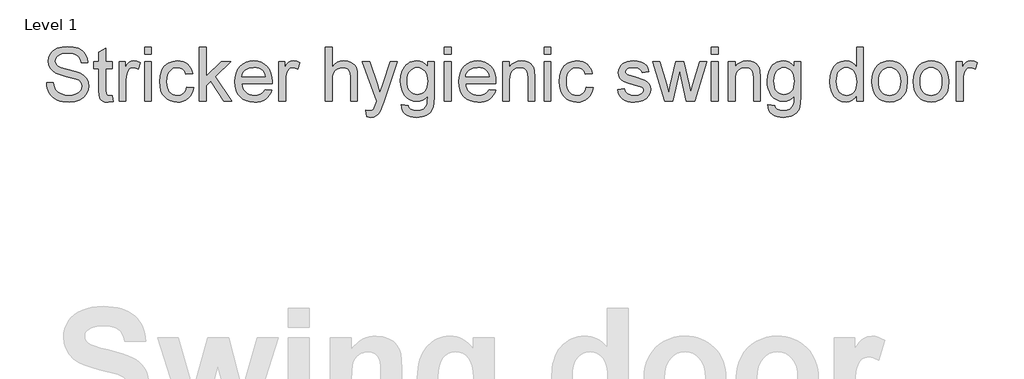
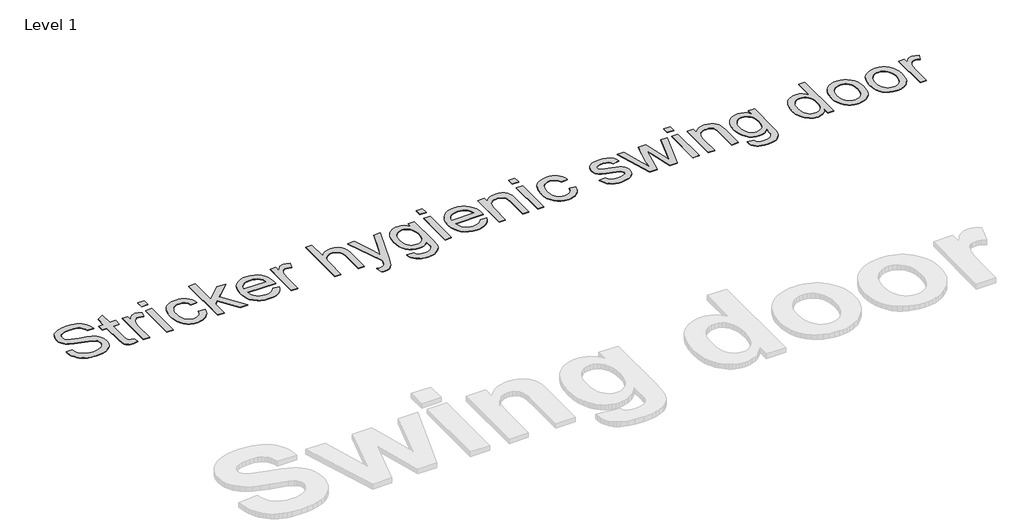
# One storey, part 20 of 20: 1 proxy.
"""IFC4 building model written with IfcOpenShell, lengths in millimetres."""

import ifcopenshell
import ifcopenshell.guid

model = None  # the IFC model being written
_history = None  # IfcOwnerHistory: only IFC2X3 demands one
_inside = {}  # id of a spatial element -> (the spatial element, [elements in it])
_under = {}  # id of a project, library or spatial element -> (it, [spatial elements below it])
_declared = {}  # id of a project -> (the project, [libraries it declares])
_typed = {}  # id of a type object -> (the type object, [elements of that type])
_made_of = {}  # id of a material, layer set ... -> (it, [elements and type objects made of it])


def new_model(schema):
    """Start an empty IFC model of exactly this schema.

    Asked for "IFC4X3", IfcOpenShell would pick the latest addendum, in which some entities
    have other attributes; the version numbers below select the first issue.
    IFC2X3 requires an IfcOwnerHistory on every rooted entity: one is made here for all.
    """
    global model, _history
    if schema == "IFC4X3":
        model = ifcopenshell.file(schema_version=(4, 3, 0, 0))
    else:
        model = ifcopenshell.file(schema=schema)
    _inside.clear()
    _under.clear()
    _declared.clear()
    _typed.clear()
    _made_of.clear()
    _history = None
    if model.schema == "IFC2X3":
        org = make("IfcOrganization", Name="unknown")
        user = make(
            "IfcPersonAndOrganization",
            ThePerson=make("IfcPerson", FamilyName="unknown"),
            TheOrganization=org,
        )
        app = make(
            "IfcApplication",
            ApplicationDeveloper=org,
            Version="unknown",
            ApplicationFullName="unknown",
            ApplicationIdentifier="unknown",
        )
        _history = make(
            "IfcOwnerHistory",
            OwningUser=user,
            OwningApplication=app,
            ChangeAction="ADDED",
            CreationDate=0,
        )
    return model


def make(cls, **values):
    """One entity of the class cls with the attributes given. An attribute that is None is left unset."""
    return model.create_entity(
        cls, **{name: value for name, value in values.items() if value is not None}
    )


def rooted(cls, **values):
    """An entity with a GlobalId (a new one), such as an element, a storey or a relation."""
    return make(cls, GlobalId=ifcopenshell.guid.new(), OwnerHistory=_history, **values)


def si_unit(unit_type, name, prefix=None):
    """IfcSIUnit, for example si_unit("LENGTHUNIT", "METRE", prefix="MILLI")."""
    return make("IfcSIUnit", UnitType=unit_type, Prefix=prefix, Name=name)


def assignment(units):
    """IfcUnitAssignment: the units of a project."""
    return None if units is None else make("IfcUnitAssignment", Units=units)


def point(xyz):
    """IfcCartesianPoint."""
    return None if xyz is None else make("IfcCartesianPoint", Coordinates=xyz)


def direction(xyz):
    """IfcDirection."""
    return None if xyz is None else make("IfcDirection", DirectionRatios=xyz)


def frame(location, z_axis=None, x_axis=None):
    """IfcAxis2Placement3D, a coordinate frame: its origin and axes. An axis left out is left unset."""
    return make(
        "IfcAxis2Placement3D",
        Location=point(location),
        Axis=direction(z_axis),
        RefDirection=direction(x_axis),
    )


def origin():
    """The frame at (0, 0, 0) with its axes left unset."""
    return frame((0.0, 0.0, 0.0))


def origin_with_axes():
    """The frame at (0, 0, 0) with the z axis (0, 0, 1) and the x axis (1, 0, 0) written out."""
    return frame((0.0, 0.0, 0.0), z_axis=(0.0, 0.0, 1.0), x_axis=(1.0, 0.0, 0.0))


def place(relative_to, where):
    """IfcLocalPlacement: puts the frame where relative to a parent placement (None: the world)."""
    return make(
        "IfcLocalPlacement", PlacementRelTo=relative_to, RelativePlacement=where
    )


def context(
    kind, dimensions, precision=None, world=None, true_north=None, identifier=None
):
    """IfcGeometricRepresentationContext, for example the 3D "Model" context."""
    return make(
        "IfcGeometricRepresentationContext",
        ContextIdentifier=identifier,
        ContextType=kind,
        CoordinateSpaceDimension=dimensions,
        Precision=precision,
        WorldCoordinateSystem=world,
        TrueNorth=true_north,
    )


def project(units=None, contexts=None):
    """IfcProject with its units and contexts."""
    return rooted(
        "IfcProject",
        Name="project",
        RepresentationContexts=contexts,
        UnitsInContext=assignment(units),
    )


def spatial(cls, under=None, at=None, **own):
    """A site, building, storey or space (cls), placed at a placement, below another one or the project."""
    s = rooted(cls, ObjectPlacement=at, **own)
    if under is not None:
        _under.setdefault(under.id(), (under, []))[1].append(s)
    return s


def polyline(points):
    """IfcPolyline through the points."""
    return make("IfcPolyline", Points=[point(p) for p in points])


def outline(outer, holes=None, kind="AREA"):
    """IfcArbitraryClosedProfileDef: a profile drawn as a closed curve; with holes, ...WithVoids."""
    if holes is None:
        return make("IfcArbitraryClosedProfileDef", ProfileType=kind, OuterCurve=outer)
    return make(
        "IfcArbitraryProfileDefWithVoids",
        ProfileType=kind,
        OuterCurve=outer,
        InnerCurves=holes,
    )


def extrude(swept, where, along, depth):
    """IfcExtrudedAreaSolid: the profile swept, set in the frame where, extruded along a direction by depth."""
    return make(
        "IfcExtrudedAreaSolid",
        SweptArea=swept,
        Position=where,
        ExtrudedDirection=direction(along),
        Depth=depth,
    )


def shape(context_of_items, identifier, shape_type, items):
    """IfcShapeRepresentation: the items that make up one representation, for example the "Body"."""
    return make(
        "IfcShapeRepresentation",
        ContextOfItems=context_of_items,
        RepresentationIdentifier=identifier,
        RepresentationType=shape_type,
        Items=items,
    )


def made_of(thing, what):
    """Note that an element or type object is made of a material, layer set ...; save() writes the relation."""
    if what is not None:
        _made_of.setdefault(what.id(), (what, []))[1].append(thing)
    return thing


def element(
    cls,
    number,
    at=None,
    inside=None,
    cuts=None,
    type_object=None,
    material=None,
    context=None,
    identifier="Body",
    shape_type=None,
    held_by="IfcProductDefinitionShape",
    body=None,
    shapes=None,
    **own,
):
    """One element of the class cls, such as IfcWall. Its Tag is "e" and its number.

    at: its placement. inside: the storey or other place that contains it. cuts: it is an
    opening in that element (IfcRelVoidsElement). A single representation is given by context,
    identifier, shape_type and body (its items); several are given by shapes. held_by: the class
    of the entity that holds the representations. save() writes the other relations.
    """
    e = rooted(cls, Tag="e%d" % number, ObjectPlacement=at, **own)
    if body is not None:
        shapes = [shape(context, identifier, shape_type, body)]
    if shapes is not None:
        e.Representation = make(held_by, Representations=shapes)
    if inside is not None:
        _inside.setdefault(inside.id(), (inside, []))[1].append(e)
    if cuts is not None:
        rooted(
            "IfcRelVoidsElement", RelatingBuildingElement=cuts, RelatedOpeningElement=e
        )
    if type_object is not None:
        _typed.setdefault(type_object.id(), (type_object, []))[1].append(e)
    return made_of(e, material)


def aggregate(whole, parts):
    """IfcRelAggregates: a whole, such as a stair, and the parts it consists of."""
    return rooted("IfcRelAggregates", RelatingObject=whole, RelatedObjects=parts)


def save(model, path):
    """Write the relations noted so far, then the file.

    IfcRelAggregates (storeys below a building ...), IfcRelContainedInSpatialStructure (elements
    in a storey), IfcRelDefinesByType, IfcRelAssociatesMaterial and IfcRelDeclares: one each for
    every whole, place, type object, material and project.
    """
    for whole, parts in _under.values():
        aggregate(whole, parts)
    for where, things in _inside.values():
        rooted(
            "IfcRelContainedInSpatialStructure",
            RelatedElements=things,
            RelatingStructure=where,
        )
    for kind, things in _typed.values():
        rooted("IfcRelDefinesByType", RelatedObjects=things, RelatingType=kind)
    for what, things in _made_of.values():
        rooted("IfcRelAssociatesMaterial", RelatedObjects=things, RelatingMaterial=what)
    for by, libraries in _declared.values():
        rooted("IfcRelDeclares", RelatingContext=by, RelatedDefinitions=libraries)
    model.write(path)


model = new_model("IFC4")

# Units and contexts
model_context = context("Model", 3, world=origin())
ifc_project = project(units=[si_unit("LENGTHUNIT", "METRE", prefix="MILLI")], contexts=[model_context])

# Site, building, storey
site = spatial("IfcSite", under=ifc_project)
building = spatial("IfcBuilding", under=site)
storey = spatial("IfcBuildingStorey", under=building, Name="Level 1", Elevation=0.0)

# Proxy
placement = place(None, origin())
element("IfcBuildingElementProxy", 1, Name="500mm", ObjectType="500mm", at=placement, inside=storey, context=model_context, shape_type="SweptSolid", body=[
    extrude(outline(polyline([(370.7762391, 91481.9656137), (433.5614329, 91481.9656137), (440.7657887, 91447.1241231), (453.7949427, 91419.1191062), (474.1204229, 91396.8929023), (503.2137574, 91379.3878507), (538.7756836, 91368.0294941), (578.506939, 91364.2433752), (613.4863854, 91367.1097891), (644.1125615, 91375.7090307), (668.9292678, 91389.3206646), (686.4803046, 91407.224255), (696.9189562, 91427.7796615), (700.3985068, 91449.3467434), (697.792676, 91470.3620024), (689.9751836, 91488.5261759), (674.0949441, 91504.023205), (647.3008721, 91517.0370306), (555.8821963, 91541.0106739), (495.8714459, 91556.8755849), (457.4737626, 91571.9740752), (426.2191215, 91593.0966331), (404.0695597, 91618.6950886), (390.8717931, 91648.2176187), (386.4725376, 91681.1124004), (391.9141254, 91717.8852715), (408.2388889, 91752.1749391), (420.3751627, 91767.702625), (435.0176325, 91781.2376168), (471.8211604, 91802.3295178), (515.9976567, 91815.1594024), (564.8953052, 91819.4360306), (617.8703125, 91814.960133), (664.2234439, 91801.5324402), (702.2992304, 91779.4288636), (717.6123185, 91765.2270858), (730.442203, 91748.9253148), (748.253823, 91711.9225175), (755.3355514, 91670.3211952), (692.5503575, 91670.3211952), (688.3503714, 91690.3554355), (681.0233884, 91707.7838451), (670.5694083, 91722.6064238), (656.9884313, 91734.8231717), (640.0275385, 91744.3727752), (619.433811, 91751.1939205), (567.3478519, 91756.6508367), (514.0356194, 91751.2552342), (493.6564897, 91744.5107309), (477.4620177, 91735.0684264), (465.1226424, 91723.717734), (456.308803, 91711.2480672), (451.0204993, 91697.659426), (449.2577314, 91682.9518104), (454.2547952, 91658.8248829), (469.2459865, 91639.4191076), (483.0109045, 91630.7892091), (504.6852853, 91622.0673402), (571.7624358, 91604.3476907), (640.9855646, 91587.5170895), (682.8627983, 91572.8324665), (718.6546508, 91550.0544396), (743.6246412, 91521.9421238), (758.2939358, 91488.8020874), (763.1837006, 91450.9408988), (757.5581718, 91412.2366472), (740.6815852, 91375.8316581), (713.2437198, 91344.5003748), (675.9343541, 91321.0172408), (631.0680791, 91306.3479462), (580.9594857, 91301.4581814), (519.4465504, 91306.7311566), (492.7712736, 91313.3223757), (468.8167908, 91322.5500824), (447.4374819, 91334.4296052), (428.4877271, 91348.9762724), (411.9675262, 91366.1900841), (397.8768794, 91386.0710403), (386.526187, 91407.9753474), (378.2258495, 91431.259212), (372.9758669, 91455.9226341), (370.7762391, 91481.9656137)])), origin_with_axes(), (0.0, 0.0, 1.0), 5.0),
    extrude(outline(polyline([(982.9318791, 91361.6682013), (990.7800283, 91307.4669206), (943.8137603, 91301.4581814), (913.6780935, 91304.0640122), (891.2066349, 91311.8815046), (875.3263955, 91323.9296399), (864.964386, 91339.2273996), (859.262215, 91365.5003054), (857.3614914, 91410.4738793), (857.3614914, 91615.3841506), (810.272596, 91615.3841506), (810.272596, 91678.1693444), (857.3614914, 91678.1693444), (857.3614914, 91767.8099239), (920.1466852, 91804.7207508), (920.1466852, 91678.1693444), (982.9318791, 91678.1693444), (982.9318791, 91615.3841506), (920.1466852, 91615.3841506), (920.1466852, 91412.3132893), (923.4576232, 91379.9396737), (934.1875147, 91368.4740182), (955.5859841, 91364.2433752), (982.9318791, 91361.6682013)])), origin_with_axes(), (0.0, 0.0, 1.0), 5.0),
    extrude(outline(polyline([(1045.7170729, 91309.3063306), (1045.7170729, 91678.1693444), (1100.6541175, 91678.1693444), (1100.6541175, 91623.6001818), (1120.9489409, 91655.2380334), (1139.649609, 91673.8773878), (1158.4115908, 91682.9824672), (1178.8903552, 91686.0174937), (1210.1603248, 91681.1737141), (1241.9208037, 91666.6423753), (1220.95153, 91610.35643), (1198.8786102, 91620.0133324), (1176.8056905, 91623.2322998), (1158.0590372, 91620.1359597), (1141.305078, 91610.8469393), (1127.7700863, 91596.0703459), (1118.6803353, 91576.5112864), (1111.0467839, 91541.4398696), (1108.5022668, 91503.1801421), (1108.5022668, 91309.3063306), (1045.7170729, 91309.3063306)])), origin_with_axes(), (0.0, 0.0, 1.0), 5.0),
    extrude(outline(polyline([(1281.1615498, 91748.8026875), (1281.1615498, 91811.5878814), (1343.9467437, 91811.5878814), (1343.9467437, 91748.8026875), (1281.1615498, 91748.8026875)])), origin_with_axes(), (0.0, 0.0, 1.0), 5.0),
    extrude(outline(polyline([(1281.1615498, 91309.3063306), (1281.1615498, 91678.1693444), (1343.9467437, 91678.1693444), (1343.9467437, 91309.3063306), (1281.1615498, 91309.3063306)])), origin_with_axes(), (0.0, 0.0, 1.0), 5.0),
    extrude(outline(polyline([(1673.5690113, 91442.7248675), (1736.3542052, 91434.8767183), (1729.5253957, 91405.2507214), (1718.8491536, 91379.0352971), (1704.325479, 91356.2304455), (1685.9543719, 91336.8361666), (1664.5099172, 91321.3582981), (1640.7662001, 91310.3026777), (1614.7232205, 91303.6693055), (1586.3809785, 91301.4581814), (1551.1677738, 91304.5430252), (1519.595068, 91313.7975566), (1491.662861, 91329.2217757), (1467.3711531, 91350.8156824), (1447.7086268, 91378.1730737), (1433.6639652, 91410.8877465), (1425.2371683, 91448.9597009), (1422.428236, 91492.3889369), (1427.2260303, 91548.2610149), (1441.6194134, 91596.6834825), (1452.4719322, 91617.6335957), (1465.8383114, 91635.7862729), (1481.7185509, 91651.1415141), (1500.1126506, 91663.6993193), (1541.1161647, 91680.4379501), (1585.5225872, 91686.0174937), (1613.378152, 91684.1014416), (1638.5742366, 91678.3532854), (1661.1108409, 91668.7730251), (1680.9879649, 91655.3606607), (1697.8683836, 91638.4227605), (1711.4148716, 91618.2658929), (1721.6274291, 91594.8900578), (1728.506056, 91568.2952552), (1665.7208621, 91560.447106), (1654.3318487, 91587.8389862), (1636.5968708, 91607.4746877), (1613.4969472, 91619.2928968), (1586.0130965, 91623.2322998), (1564.6797729, 91621.2932551), (1545.4387781, 91615.4761211), (1528.2901122, 91605.7808977), (1513.2337751, 91592.2075849), (1500.974874, 91574.4419502), (1492.2185161, 91552.1697611), (1486.9647014, 91525.3910175), (1485.2134298, 91494.1057195), (1486.9263804, 91462.3490727), (1492.065232, 91435.2599287), (1500.6299847, 91412.8382875), (1512.6206385, 91395.0841492), (1527.3780714, 91381.5913106), (1544.2431616, 91371.9535687), (1563.2159091, 91366.1709236), (1584.2963139, 91364.2433752), (1616.8078852, 91369.056498), (1643.4640014, 91383.4958663), (1654.2437103, 91394.417363), (1662.8544482, 91407.9293622), (1673.5690113, 91442.7248675)])), origin_with_axes(), (0.0, 0.0, 1.0), 5.0),
    extrude(outline(polyline([(1791.2912498, 91309.3063306), (1791.2912498, 91811.5878814), (1854.0764436, 91811.5878814), (1854.0764436, 91541.6851242), (1994.8526205, 91678.1693444), (2081.6727713, 91678.1693444), (1939.1798119, 91539.9683416), (2089.5209206, 91309.3063306), (2016.1897762, 91309.3063306), (1894.1755811, 91496.3130115), (1854.0764436, 91457.4401473), (1854.0764436, 91309.3063306), (1791.2912498, 91309.3063306)])), origin_with_axes(), (0.0, 0.0, 1.0), 5.0),
    extrude(outline(polyline([(2402.7111258, 91419.1804198), (2464.2700463, 91411.3322706), (2454.8315739, 91386.6765127), (2442.0898277, 91364.9484824), (2426.0448078, 91346.1481796), (2406.6965141, 91330.2756043), (2384.2442161, 91317.6679818), (2358.8871831, 91308.6625371), (2330.6254153, 91303.2592703), (2299.4589125, 91301.4581814), (2260.501742, 91304.5660178), (2225.7905429, 91313.8895271), (2195.3253152, 91329.4287093), (2169.1060589, 91351.1835644), (2148.021822, 91378.5486199), (2132.9616528, 91410.9184034), (2123.9255513, 91448.2929148), (2120.9135175, 91490.6721542), (2123.9562082, 91534.4884327), (2133.0842802, 91573.108378), (2148.2977335, 91606.5319901), (2169.5965682, 91634.759269), (2195.7468467, 91657.1847423), (2225.5146314, 91673.2029375), (2258.8999225, 91682.8138546), (2295.9027199, 91686.0174937), (2331.7137328, 91682.8215188), (2364.0988447, 91673.2335943), (2393.0580555, 91657.2537202), (2418.5913652, 91634.8818963), (2439.4341795, 91606.7159311), (2454.321904, 91573.3536326), (2463.2545387, 91534.795001), (2466.2320836, 91491.0400362), (2465.8642016, 91474.1174645), (2183.6987113, 91474.1174645), (2187.3353781, 91449.0631677), (2194.5665586, 91427.1205396), (2205.3922527, 91408.2895799), (2219.8124605, 91392.5702889), (2237.0301043, 91380.1772641), (2256.2481065, 91371.3251036), (2277.466467, 91366.0138073), (2300.6851858, 91364.2433752), (2334.1011337, 91367.5236563), (2362.2441063, 91377.3644997), (2385.1141037, 91394.379042), (2402.7111258, 91419.1804198)]), holes=[polyline([(2183.6987113, 91536.9026583), (2403.4468898, 91536.9026583), (2394.9549471, 91570.0733515), (2378.3082868, 91593.8017402), (2361.1864456, 91606.67761), (2341.7040283, 91615.8746599), (2319.8610348, 91621.3928899), (2295.6574652, 91623.2322998), (2253.3357073, 91617.3615163), (2234.9224471, 91610.0230369), (2218.3409325, 91599.7491658), (2204.4265625, 91587.0150838), (2194.0147356, 91572.2959719), (2187.1054519, 91555.5918301), (2183.6987113, 91536.9026583)])]), origin_with_axes(), (0.0, 0.0, 1.0), 5.0),
    extrude(outline(polyline([(2529.0172775, 91309.3063306), (2529.0172775, 91678.1693444), (2583.9543221, 91678.1693444), (2583.9543221, 91623.6001818), (2604.2491455, 91655.2380334), (2622.9498136, 91673.8773878), (2641.7117953, 91682.9824672), (2662.1905597, 91686.0174937), (2693.4605293, 91681.1737141), (2725.2210082, 91666.6423753), (2704.2517345, 91610.35643), (2682.1788148, 91620.0133324), (2660.1058951, 91623.2322998), (2641.3592417, 91620.1359597), (2624.6052825, 91610.8469393), (2611.0702908, 91596.0703459), (2601.9805398, 91576.5112864), (2594.3469884, 91541.4398696), (2591.8024713, 91503.1801421), (2591.8024713, 91309.3063306), (2529.0172775, 91309.3063306)])), origin_with_axes(), (0.0, 0.0, 1.0), 5.0),
    extrude(outline(polyline([(2960.6654851, 91309.3063306), (2960.6654851, 91811.5878814), (3023.450679, 91811.5878814), (3023.450679, 91626.9111198), (3046.5122816, 91652.7701584), (3072.4096412, 91671.2409002), (3101.1427578, 91682.3233453), (3132.7116316, 91686.0174937), (3170.6341339, 91681.9861201), (3203.2223473, 91669.8919996), (3228.8821165, 91650.6854937), (3246.0192861, 91625.3169645), (3255.6761884, 91590.4601454), (3258.8951559, 91542.7887702), (3258.8951559, 91309.3063306), (3196.1099621, 91309.3063306), (3196.1099621, 91536.2895216), (3191.1128983, 91575.5915815), (3184.8665686, 91590.5981012), (3176.121707, 91602.5082808), (3165.0852471, 91611.5750391), (3151.9641226, 91618.0512951), (3119.4678797, 91623.2322998), (3092.9343908, 91619.7374209), (3068.0257141, 91609.252784), (3047.3936655, 91592.7900647), (3033.6900612, 91571.3609385), (3026.0105245, 91542.8807407), (3023.450679, 91505.2648067), (3023.450679, 91309.3063306), (2960.6654851, 91309.3063306)])), origin_with_axes(), (0.0, 0.0, 1.0), 5.0),
    extrude(outline(polyline([(3345.2247974, 91168.0396445), (3337.3766482, 91228.494919), (3369.2597545, 91222.9766891), (3386.0290421, 91224.7088001), (3399.0581961, 91229.9051333), (3409.2056078, 91238.1978066), (3417.3296685, 91249.2189381), (3434.4974949, 91295.4494421), (3439.4025882, 91310.6552313), (3305.9840513, 91678.1693444), (3372.2028104, 91678.1693444), (3442.9587808, 91473.3817005), (3467.6068745, 91391.4666429), (3492.2549682, 91463.8167686), (3564.9729759, 91678.1693444), (3630.7012257, 91678.1693444), (3502.3104094, 91300.4771627), (3468.9557751, 91218.5621051), (3451.8799192, 91192.4118266), (3432.5354576, 91174.2936384), (3410.0639991, 91163.717031), (3383.6071523, 91160.1914952), (3365.4276503, 91162.1535325), (3345.2247974, 91168.0396445)])), origin_with_axes(), (0.0, 0.0, 1.0), 5.0),
    extrude(outline(polyline([(3666.9989159, 91277.9137337), (3729.7841097, 91270.0655845), (3736.712554, 91250.4452114), (3750.1402468, 91236.9562049), (3776.5357799, 91226.471568), (3811.0860307, 91222.9766891), (3847.9355438, 91226.9314205), (3875.3427525, 91238.7956149), (3894.3499889, 91257.8028513), (3905.9995854, 91283.186709), (3909.4024939, 91310.1953788), (3910.291542, 91356.395226), (3889.3989104, 91335.7938343), (3866.0843889, 91321.0785545), (3840.3479777, 91312.2493866), (3812.1896766, 91309.3063306), (3777.7658854, 91312.7322317), (3747.4577739, 91323.0099349), (3721.2653423, 91340.1394403), (3699.1885905, 91364.1207479), (3681.6720425, 91392.8921856), (3669.1602226, 91424.3920814), (3661.6531306, 91458.6204354), (3659.1507667, 91495.5772475), (3663.6419927, 91546.2683208), (3677.1156707, 91592.8820352), (3699.09662, 91632.3833645), (3713.0991284, 91648.3287497), (3729.1096594, 91661.737282), (3746.871462, 91672.3598746), (3766.1277852, 91679.9474408), (3786.878629, 91684.4999804), (3809.1239934, 91686.0174937), (3838.4855751, 91682.5839284), (3865.1340271, 91672.2832325), (3889.0693494, 91655.1154061), (3910.291542, 91631.0804491), (3910.291542, 91678.1693444), (3973.0767359, 91678.1693444), (3973.0767359, 91359.706164), (3968.7847793, 91286.1757502), (3963.4198335, 91258.8260231), (3955.9089094, 91237.7532825), (3933.7286908, 91205.6402501), (3901.5236878, 91181.0381416), (3881.838169, 91171.9177338), (3859.9990076, 91165.4031568), (3809.8597573, 91160.1914952), (3779.0994576, 91162.0270731), (3751.4431622, 91167.5338067), (3726.8908711, 91176.7116961), (3705.4425844, 91189.5607412), (3688.1176417, 91206.0962704), (3675.9353827, 91226.3336123), (3668.8958074, 91250.2727667), (3666.9989159, 91277.9137337)]), holes=[polyline([(3721.9359605, 91499.8692041), (3723.61059, 91468.8253287), (3728.6344785, 91442.2803435), (3737.007626, 91420.2342485), (3748.7300325, 91402.6870437), (3762.9816277, 91389.301504), (3778.9423413, 91379.7404043), (3796.6121734, 91374.0037444), (3815.9911239, 91372.0915245), (3835.1784692, 91373.9922481), (3852.763995, 91379.694419), (3868.7477013, 91389.1980372), (3883.129588, 91402.5031027), (3895.0129429, 91419.8778628), (3903.5010535, 91441.5905647), (3908.5939199, 91467.6412085), (3910.291542, 91498.0297941), (3908.5441025, 91527.1499533), (3903.3017841, 91552.461001), (3894.5645867, 91573.9629372), (3882.3325104, 91591.6557619), (3867.6402232, 91605.4704972), (3851.5223933, 91615.3381653), (3833.9790206, 91621.2587662), (3815.0101053, 91623.2322998), (3796.3592545, 91621.289423), (3779.1569392, 91615.4607927), (3763.4031591, 91605.7464087), (3749.0979145, 91592.1462712), (3737.2145596, 91574.7216938), (3728.726449, 91553.5339902), (3723.6335826, 91528.5831603), (3721.9359605, 91499.8692041)])]), origin_with_axes(), (0.0, 0.0, 1.0), 5.0),
    extrude(outline(polyline([(4067.2545266, 91748.8026875), (4067.2545266, 91811.5878814), (4130.0397205, 91811.5878814), (4130.0397205, 91748.8026875), (4067.2545266, 91748.8026875)])), origin_with_axes(), (0.0, 0.0, 1.0), 5.0),
    extrude(outline(polyline([(4067.2545266, 91309.3063306), (4067.2545266, 91678.1693444), (4130.0397205, 91678.1693444), (4130.0397205, 91309.3063306), (4067.2545266, 91309.3063306)])), origin_with_axes(), (0.0, 0.0, 1.0), 5.0),
    extrude(outline(polyline([(4482.4706719, 91419.1804198), (4544.0295924, 91411.3322706), (4534.5911199, 91386.6765127), (4521.8493738, 91364.9484824), (4505.8043538, 91346.1481796), (4486.4560601, 91330.2756043), (4464.0037621, 91317.6679818), (4438.6467292, 91308.6625371), (4410.3849613, 91303.2592703), (4379.2184585, 91301.4581814), (4340.2612881, 91304.5660178), (4305.550089, 91313.8895271), (4275.0848613, 91329.4287093), (4248.8656049, 91351.1835644), (4227.7813681, 91378.5486199), (4212.7211989, 91410.9184034), (4203.6850974, 91448.2929148), (4200.6730636, 91490.6721542), (4203.7157542, 91534.4884327), (4212.8438262, 91573.108378), (4228.0572796, 91606.5319901), (4249.3561142, 91634.759269), (4275.5063927, 91657.1847423), (4305.2741775, 91673.2029375), (4338.6594686, 91682.8138546), (4375.6622659, 91686.0174937), (4411.4732789, 91682.8215188), (4443.8583908, 91673.2335943), (4472.8176016, 91657.2537202), (4498.3509113, 91634.8818963), (4519.1937256, 91606.7159311), (4534.0814501, 91573.3536326), (4543.0140848, 91534.795001), (4545.9916297, 91491.0400362), (4545.6237477, 91474.1174645), (4263.4582574, 91474.1174645), (4267.0949242, 91449.0631677), (4274.3261047, 91427.1205396), (4285.1517988, 91408.2895799), (4299.5720066, 91392.5702889), (4316.7896504, 91380.1772641), (4336.0076525, 91371.3251036), (4357.226013, 91366.0138073), (4380.4447319, 91364.2433752), (4413.8606798, 91367.5236563), (4442.0036524, 91377.3644997), (4464.8736498, 91394.379042), (4482.4706719, 91419.1804198)]), holes=[polyline([(4263.4582574, 91536.9026583), (4483.2064358, 91536.9026583), (4474.7144931, 91570.0733515), (4458.0678328, 91593.8017402), (4440.9459917, 91606.67761), (4421.4635743, 91615.8746599), (4399.6205809, 91621.3928899), (4375.4170113, 91623.2322998), (4333.0952534, 91617.3615163), (4314.6819931, 91610.0230369), (4298.1004786, 91599.7491658), (4284.1861086, 91587.0150838), (4273.7742817, 91572.2959719), (4266.864998, 91555.5918301), (4263.4582574, 91536.9026583)])]), origin_with_axes(), (0.0, 0.0, 1.0), 5.0),
    extrude(outline(polyline([(4608.7768235, 91309.3063306), (4608.7768235, 91678.1693444), (4671.5620174, 91678.1693444), (4671.5620174, 91626.6658651), (4693.374354, 91652.6322026), (4719.5706177, 91671.1795865), (4750.1508086, 91682.3080169), (4785.1149266, 91686.0174937), (4816.0629994, 91683.0284525), (4844.4052414, 91674.0613288), (4868.0416596, 91660.2350972), (4884.8722609, 91642.6687319), (4896.2919312, 91621.4082183), (4903.6955563, 91596.4995415), (4907.0064943, 91535.7990123), (4907.0064943, 91309.3063306), (4844.2213004, 91309.3063306), (4844.2213004, 91527.3377264), (4842.4125473, 91559.8033125), (4836.9862879, 91582.8879077), (4826.9768319, 91599.4272691), (4811.4184892, 91612.2571536), (4791.4762194, 91620.4885133), (4768.3149821, 91623.2322998), (4749.2502641, 91621.691794), (4731.542111, 91617.0702764), (4715.1905227, 91609.3677471), (4700.1954993, 91598.5842062), (4687.668351, 91583.4933801), (4678.7203879, 91562.8689958), (4673.35161, 91536.7110531), (4671.5620174, 91505.019552), (4671.5620174, 91309.3063306), (4608.7768235, 91309.3063306)])), origin_with_axes(), (0.0, 0.0, 1.0), 5.0),
    extrude(outline(polyline([(4993.3361358, 91748.8026875), (4993.3361358, 91811.5878814), (5056.1213297, 91811.5878814), (5056.1213297, 91748.8026875), (4993.3361358, 91748.8026875)])), origin_with_axes(), (0.0, 0.0, 1.0), 5.0),
    extrude(outline(polyline([(4993.3361358, 91309.3063306), (4993.3361358, 91678.1693444), (5056.1213297, 91678.1693444), (5056.1213297, 91309.3063306), (4993.3361358, 91309.3063306)])), origin_with_axes(), (0.0, 0.0, 1.0), 5.0),
    extrude(outline(polyline([(5385.7435973, 91442.7248675), (5448.5287912, 91434.8767183), (5441.6999817, 91405.2507214), (5431.0237396, 91379.0352971), (5416.500065, 91356.2304455), (5398.1289579, 91336.8361666), (5376.6845032, 91321.3582981), (5352.9407861, 91310.3026777), (5326.8978065, 91303.6693055), (5298.5555645, 91301.4581814), (5263.3423598, 91304.5430252), (5231.7696539, 91313.7975566), (5203.837447, 91329.2217757), (5179.5457391, 91350.8156824), (5159.8832128, 91378.1730737), (5145.8385512, 91410.8877465), (5137.4117543, 91448.9597009), (5134.602822, 91492.3889369), (5139.4006163, 91548.2610149), (5153.7939994, 91596.6834825), (5164.6465182, 91617.6335957), (5178.0128974, 91635.7862729), (5193.8931369, 91651.1415141), (5212.2872366, 91663.6993193), (5253.2907507, 91680.4379501), (5297.6971732, 91686.0174937), (5325.552738, 91684.1014416), (5350.7488226, 91678.3532854), (5373.2854269, 91668.7730251), (5393.1625509, 91655.3606607), (5410.0429695, 91638.4227605), (5423.5894576, 91618.2658929), (5433.8020151, 91594.8900578), (5440.680642, 91568.2952552), (5377.8954481, 91560.447106), (5366.5064347, 91587.8389862), (5348.7714568, 91607.4746877), (5325.6715332, 91619.2928968), (5298.1876825, 91623.2322998), (5276.8543589, 91621.2932551), (5257.6133641, 91615.4761211), (5240.4646982, 91605.7808977), (5225.4083611, 91592.2075849), (5213.14946, 91574.4419502), (5204.3931021, 91552.1697611), (5199.1392874, 91525.3910175), (5197.3880158, 91494.1057195), (5199.1009664, 91462.3490727), (5204.239818, 91435.2599287), (5212.8045707, 91412.8382875), (5224.7952245, 91395.0841492), (5239.5526574, 91381.5913106), (5256.4177476, 91371.9535687), (5275.3904951, 91366.1709236), (5296.4708999, 91364.2433752), (5328.9824712, 91369.056498), (5355.6385874, 91383.4958663), (5366.4182963, 91394.417363), (5375.0290342, 91407.9293622), (5385.7435973, 91442.7248675)])), origin_with_axes(), (0.0, 0.0, 1.0), 5.0),
    extrude(outline(polyline([(5676.1251189, 91419.1804198), (5738.9103127, 91427.0285691), (5748.8124698, 91400.1731834), (5767.9729903, 91380.430183), (5796.5145018, 91368.2900772), (5834.5596315, 91364.2433752), (5872.1449086, 91367.952852), (5898.5710986, 91379.0812824), (5914.2060834, 91395.2067765), (5919.417745, 91413.9074446), (5914.1754266, 91429.9103114), (5898.4484713, 91442.1117309), (5833.8238675, 91460.0153213), (5776.5262467, 91476.5853395), (5739.2781947, 91490.7334679), (5715.3505366, 91506.1691833), (5698.0140976, 91526.6019624), (5687.4834755, 91550.7288899), (5683.9732681, 91577.2470504), (5686.7936967, 91601.5732474), (5695.2549826, 91624.0293775), (5708.5907049, 91643.7263926), (5726.0344429, 91659.7752447), (5743.3708819, 91669.8766711), (5765.9496394, 91678.3532854), (5792.0539326, 91684.1014416), (5819.966979, 91686.0174937), (5860.8325373, 91682.936482), (5896.3638067, 91673.6934468), (5924.9359749, 91659.1927649), (5944.92423, 91640.3388126), (5958.1679818, 91615.7367042), (5966.5066404, 91583.9915537), (5903.7214466, 91576.1434044), (5895.7966552, 91595.9017333), (5880.1156852, 91610.7856257), (5856.5252523, 91620.1206313), (5824.8720723, 91623.2322998), (5788.8196367, 91620.258587), (5764.7846797, 91611.3374487), (5751.2650164, 91598.4615788), (5746.7584619, 91583.6236717), (5748.6285288, 91573.9667693), (5754.2387292, 91565.3521993), (5763.8343179, 91557.6573342), (5777.6605495, 91551.4953108), (5831.7392028, 91538.1289316), (5923.8936426, 91508.5757447), (5948.235168, 91494.4429447), (5966.6905814, 91475.0984831), (5978.3248495, 91450.4810463), (5982.2029389, 91420.5293205), (5977.6503992, 91389.5659192), (5963.9927801, 91360.4419279), (5941.7512478, 91335.4412807), (5911.4469685, 91316.8479115), (5874.8427099, 91305.3056139), (5833.7012401, 91301.4581814), (5799.909746, 91303.3129198), (5770.3948801, 91308.877135), (5745.1566424, 91318.1508269), (5724.1950329, 91331.1339957), (5707.0731917, 91347.7653275), (5693.354259, 91367.9835088), (5683.0382347, 91391.7885396), (5676.1251189, 91419.1804198)])), origin_with_axes(), (0.0, 0.0, 1.0), 5.0),
    extrude(outline(polyline([(6114.0273205, 91309.3063306), (6001.8233119, 91678.1693444), (6067.0610524, 91678.1693444), (6130.7046376, 91462.9583773), (6149.711874, 91386.0710403), (6165.2855451, 91460.1379486), (6215.9306331, 91678.1693444), (6290.7333055, 91678.1693444), (6341.1331388, 91460.7510853), (6354.9900273, 91393.6739348), (6374.855655, 91464.4299052), (6438.6218675, 91678.1693444), (6504.1048627, 91678.1693444), (6391.0424628, 91309.3063306), (6315.1361445, 91309.3063306), (6266.9436031, 91525.6209438), (6252.9640873, 91593.0659762), (6190.7920301, 91309.3063306), (6114.0273205, 91309.3063306)])), origin_with_axes(), (0.0, 0.0, 1.0), 5.0),
    extrude(outline(polyline([(6547.2696835, 91748.8026875), (6547.2696835, 91811.5878814), (6610.0548773, 91811.5878814), (6610.0548773, 91748.8026875), (6547.2696835, 91748.8026875)])), origin_with_axes(), (0.0, 0.0, 1.0), 5.0),
    extrude(outline(polyline([(6547.2696835, 91309.3063306), (6547.2696835, 91678.1693444), (6610.0548773, 91678.1693444), (6610.0548773, 91309.3063306), (6547.2696835, 91309.3063306)])), origin_with_axes(), (0.0, 0.0, 1.0), 5.0),
    extrude(outline(polyline([(6704.2326681, 91309.3063306), (6704.2326681, 91678.1693444), (6767.0178619, 91678.1693444), (6767.0178619, 91626.6658651), (6788.8301985, 91652.6322026), (6815.0264623, 91671.1795865), (6845.6066531, 91682.3080169), (6880.5707711, 91686.0174937), (6911.5188439, 91683.0284525), (6939.861086, 91674.0613288), (6963.4975042, 91660.2350972), (6980.3281054, 91642.6687319), (6991.7477757, 91621.4082183), (6999.1514009, 91596.4995415), (7002.4623388, 91535.7990123), (7002.4623388, 91309.3063306), (6939.677145, 91309.3063306), (6939.677145, 91527.3377264), (6937.8683918, 91559.8033125), (6932.4421324, 91582.8879077), (6922.4326764, 91599.4272691), (6906.8743337, 91612.2571536), (6886.9320639, 91620.4885133), (6863.7708266, 91623.2322998), (6844.7061087, 91621.691794), (6826.9979555, 91617.0702764), (6810.6463673, 91609.3677471), (6795.6513439, 91598.5842062), (6783.1241955, 91583.4933801), (6774.1762324, 91562.8689958), (6768.8074545, 91536.7110531), (6767.0178619, 91505.019552), (6767.0178619, 91309.3063306), (6704.2326681, 91309.3063306)])), origin_with_axes(), (0.0, 0.0, 1.0), 5.0),
    extrude(outline(polyline([(7073.0956819, 91277.9137337), (7135.8808757, 91270.0655845), (7142.80932, 91250.4452114), (7156.2370128, 91236.9562049), (7182.632546, 91226.471568), (7217.1827967, 91222.9766891), (7254.0323099, 91226.9314205), (7281.4395185, 91238.7956149), (7300.4467549, 91257.8028513), (7312.0963514, 91283.186709), (7315.4992599, 91310.1953788), (7316.388308, 91356.395226), (7295.4956764, 91335.7938343), (7272.1811549, 91321.0785545), (7246.4447437, 91312.2493866), (7218.2864427, 91309.3063306), (7183.8626514, 91312.7322317), (7153.5545399, 91323.0099349), (7127.3621083, 91340.1394403), (7105.2853565, 91364.1207479), (7087.7688086, 91392.8921856), (7075.2569886, 91424.3920814), (7067.7498966, 91458.6204354), (7065.2475327, 91495.5772475), (7069.7387587, 91546.2683208), (7083.2124368, 91592.8820352), (7105.193386, 91632.3833645), (7119.1958944, 91648.3287497), (7135.2064254, 91661.737282), (7152.968228, 91672.3598746), (7172.2245512, 91679.9474408), (7192.975395, 91684.4999804), (7215.2207594, 91686.0174937), (7244.5823411, 91682.5839284), (7271.2307931, 91672.2832325), (7295.1661154, 91655.1154061), (7316.388308, 91631.0804491), (7316.388308, 91678.1693444), (7379.1735019, 91678.1693444), (7379.1735019, 91359.706164), (7374.8815453, 91286.1757502), (7369.5165995, 91258.8260231), (7362.0056754, 91237.7532825), (7339.8254568, 91205.6402501), (7307.6204538, 91181.0381416), (7287.934935, 91171.9177338), (7266.0957736, 91165.4031568), (7215.9565234, 91160.1914952), (7185.1962236, 91162.0270731), (7157.5399282, 91167.5338067), (7132.9876371, 91176.7116961), (7111.5393504, 91189.5607412), (7094.2144077, 91206.0962704), (7082.0321487, 91226.3336123), (7074.9925734, 91250.2727667), (7073.0956819, 91277.9137337)]), holes=[polyline([(7128.0327265, 91499.8692041), (7129.707356, 91468.8253287), (7134.7312445, 91442.2803435), (7143.104392, 91420.2342485), (7154.8267985, 91402.6870437), (7169.0783937, 91389.301504), (7185.0391073, 91379.7404043), (7202.7089394, 91374.0037444), (7222.0878899, 91372.0915245), (7241.2752352, 91373.9922481), (7258.860761, 91379.694419), (7274.8444673, 91389.1980372), (7289.2263541, 91402.5031027), (7301.1097089, 91419.8778628), (7309.5978195, 91441.5905647), (7314.6906859, 91467.6412085), (7316.388308, 91498.0297941), (7314.6408686, 91527.1499533), (7309.3985501, 91552.461001), (7300.6613527, 91573.9629372), (7288.4292764, 91591.6557619), (7273.7369892, 91605.4704972), (7257.6191593, 91615.3381653), (7240.0757867, 91621.2587662), (7221.1068713, 91623.2322998), (7202.4560205, 91621.289423), (7185.2537052, 91615.4607927), (7169.4999251, 91605.7464087), (7155.1946805, 91592.1462712), (7143.3113256, 91574.7216938), (7134.823215, 91553.5339902), (7129.7303486, 91528.5831603), (7128.0327265, 91499.8692041)])]), origin_with_axes(), (0.0, 0.0, 1.0), 5.0),
    extrude(outline(polyline([(7897.1513511, 91309.3063306), (7897.1513511, 91368.5353318), (7878.3663767, 91339.1890785), (7855.6113425, 91318.227469), (7828.8862484, 91305.6505033), (7798.1910944, 91301.4581814), (7757.6014476, 91307.5282343), (7720.4453661, 91325.7383931), (7688.9914555, 91354.8163991), (7665.5083215, 91393.4899938), (7650.8850121, 91440.1956788), (7646.0105757, 91493.3699555), (7650.5018017, 91545.8851103), (7663.9754798, 91593.3112309), (7674.0769063, 91614.441453), (7686.4162815, 91632.9505159), (7700.9936056, 91648.8384195), (7717.8088784, 91662.105164), (7755.777366, 91680.0394113), (7797.9458397, 91686.0174937), (7828.6639863, 91681.7408655), (7855.8259403, 91668.9109809), (7878.8492218, 91649.2446226), (7897.1513511, 91624.4585731), (7897.1513511, 91811.5878814), (7959.9365449, 91811.5878814), (7959.9365449, 91309.3063306), (7897.1513511, 91309.3063306)]), holes=[polyline([(7708.7957696, 91493.6152102), (7710.5662017, 91463.169143), (7715.877498, 91436.8234272), (7724.7296585, 91414.5780628), (7737.1226832, 91396.4330498), (7751.9222693, 91382.3500672), (7767.9941139, 91372.2907939), (7785.3382172, 91366.2552299), (7803.954579, 91364.2433752), (7822.6590792, 91366.1632594), (7839.8997156, 91371.9229119), (7855.6764882, 91381.5223327), (7869.9893971, 91394.9615218), (7881.872752, 91412.3477782), (7890.3608626, 91433.7884007), (7895.453729, 91459.2833894), (7897.1513511, 91488.8327443), (7895.4230721, 91521.2293525), (7890.2382353, 91549.0121073), (7881.5968405, 91572.1810088), (7869.4988878, 91590.7360569), (7854.8717464, 91604.9531632), (7838.6427854, 91615.1082391), (7820.812005, 91621.2012846), (7801.379405, 91623.2322998), (7782.3951612, 91621.2817588), (7765.051058, 91615.4301358), (7749.3470953, 91605.6774309), (7735.2832732, 91592.0236439), (7723.6949904, 91574.1698708), (7715.4176455, 91551.8172075), (7710.4512385, 91524.965654), (7708.7957696, 91493.6152102)])]), origin_with_axes(), (0.0, 0.0, 1.0), 5.0),
    extrude(outline(polyline([(8038.4180372, 91493.7378375), (8041.8132815, 91541.5088474), (8051.9990142, 91582.6733099), (8068.9752355, 91617.2312248), (8092.7419452, 91645.1825922), (8116.6696033, 91663.0478616), (8143.0804649, 91675.8087683), (8171.9745299, 91683.4653123), (8203.3517984, 91686.0174937), (8237.9901875, 91682.9096572), (8269.3099745, 91673.5861479), (8297.3111592, 91658.0469657), (8321.9937419, 91636.2921107), (8342.1391132, 91609.0573467), (8356.5286641, 91577.0784379), (8365.1623947, 91540.3553841), (8368.0403049, 91498.8881855), (8362.9512706, 91435.4591981), (8356.5899778, 91409.4238828), (8347.6841678, 91387.1746863), (8336.3449718, 91367.9566841), (8322.6835206, 91351.0149518), (8306.6998143, 91336.3494894), (8288.393853, 91323.9602968), (8247.6662504, 91307.0837102), (8203.3517984, 91301.4581814), (8168.2075716, 91304.5545215), (8136.5965447, 91313.8435419), (8108.5187178, 91329.3252425), (8083.974091, 91350.9996234), (8064.0433175, 91378.4988025), (8049.8070507, 91411.4548979), (8041.2652906, 91449.8679096), (8038.4180372, 91493.7378375)]), holes=[polyline([(8101.2032311, 91493.8604649), (8103.0196484, 91463.4067334), (8108.4689005, 91437.038025), (8117.5509872, 91414.7543396), (8130.2659087, 91396.5556771), (8145.7322809, 91382.419045), (8163.0687199, 91372.3214507), (8182.2752258, 91366.2628941), (8203.3517984, 91364.2433752), (8224.3210721, 91366.2743904), (8243.4509359, 91372.367436), (8260.7413897, 91382.5225119), (8276.1924335, 91396.7396181), (8288.9073549, 91415.1183895), (8297.9894417, 91437.7584606), (8303.4386937, 91464.6598315), (8305.2551111, 91495.8225022), (8303.4271974, 91525.3105433), (8297.9434564, 91550.989473), (8288.8038881, 91572.8592912), (8276.0084925, 91590.9199979), (8260.4999671, 91605.05663), (8243.2210096, 91615.1542244), (8224.1716201, 91621.212781), (8203.3517984, 91623.2322998), (8182.2752258, 91621.2204452), (8163.0687199, 91615.1848812), (8145.7322809, 91605.1256079), (8130.2659087, 91591.0426253), (8117.5509872, 91572.8976123), (8108.4689005, 91550.6522479), (8103.0196484, 91524.3065321), (8101.2032311, 91493.8604649)])]), origin_with_axes(), (0.0, 0.0, 1.0), 5.0),
    extrude(outline(polyline([(8422.9773495, 91493.7378375), (8426.3725938, 91541.5088474), (8436.5583265, 91582.6733099), (8453.5345478, 91617.2312248), (8477.3012575, 91645.1825922), (8501.2289156, 91663.0478616), (8527.6397772, 91675.8087683), (8556.5338422, 91683.4653123), (8587.9111107, 91686.0174937), (8622.5494998, 91682.9096572), (8653.8692867, 91673.5861479), (8681.8704715, 91658.0469657), (8706.5530541, 91636.2921107), (8726.6984255, 91609.0573467), (8741.0879764, 91577.0784379), (8749.721707, 91540.3553841), (8752.5996172, 91498.8881855), (8747.5105829, 91435.4591981), (8741.1492901, 91409.4238828), (8732.2434801, 91387.1746863), (8720.9042841, 91367.9566841), (8707.2428329, 91351.0149518), (8691.2591266, 91336.3494894), (8672.9531652, 91323.9602968), (8632.2255627, 91307.0837102), (8587.9111107, 91301.4581814), (8552.7668838, 91304.5545215), (8521.155857, 91313.8435419), (8493.0780301, 91329.3252425), (8468.5334033, 91350.9996234), (8448.6026298, 91378.4988025), (8434.366363, 91411.4548979), (8425.8246029, 91449.8679096), (8422.9773495, 91493.7378375)]), holes=[polyline([(8485.7625434, 91493.8604649), (8487.5789607, 91463.4067334), (8493.0282128, 91437.038025), (8502.1102995, 91414.7543396), (8514.825221, 91396.5556771), (8530.2915932, 91382.419045), (8547.6280322, 91372.3214507), (8566.8345381, 91366.2628941), (8587.9111107, 91364.2433752), (8608.8803844, 91366.2743904), (8628.0102482, 91372.367436), (8645.3007019, 91382.5225119), (8660.7517457, 91396.7396181), (8673.4666672, 91415.1183895), (8682.548754, 91437.7584606), (8687.998006, 91464.6598315), (8689.8144234, 91495.8225022), (8687.9865097, 91525.3105433), (8682.5027687, 91550.989473), (8673.3632004, 91572.8592912), (8660.5678047, 91590.9199979), (8645.0592794, 91605.05663), (8627.7803219, 91615.1542244), (8608.7309324, 91621.212781), (8587.9111107, 91623.2322998), (8566.8345381, 91621.2204452), (8547.6280322, 91615.1848812), (8530.2915932, 91605.1256079), (8514.825221, 91591.0426253), (8502.1102995, 91572.8976123), (8493.0282128, 91550.6522479), (8487.5789607, 91524.3065321), (8485.7625434, 91493.8604649)])]), origin_with_axes(), (0.0, 0.0, 1.0), 5.0),
    extrude(outline(polyline([(8823.2329603, 91309.3063306), (8823.2329603, 91678.1693444), (8878.1700049, 91678.1693444), (8878.1700049, 91623.6001818), (8898.4648283, 91655.2380334), (8917.1654964, 91673.8773878), (8935.9274781, 91682.9824672), (8956.4062425, 91686.0174937), (8987.6762121, 91681.1737141), (9019.436691, 91666.6423753), (8998.4674173, 91610.35643), (8976.3944976, 91620.0133324), (8954.3215779, 91623.2322998), (8935.5749246, 91620.1359597), (8918.8209654, 91610.8469393), (8905.2859736, 91596.0703459), (8896.1962227, 91576.5112864), (8888.5626713, 91541.4398696), (8886.0181541, 91503.1801421), (8886.0181541, 91309.3063306), (8823.2329603, 91309.3063306)])), origin_with_axes(), (0.0, 0.0, 1.0), 5.0),
])

save(model, "model.ifc")
